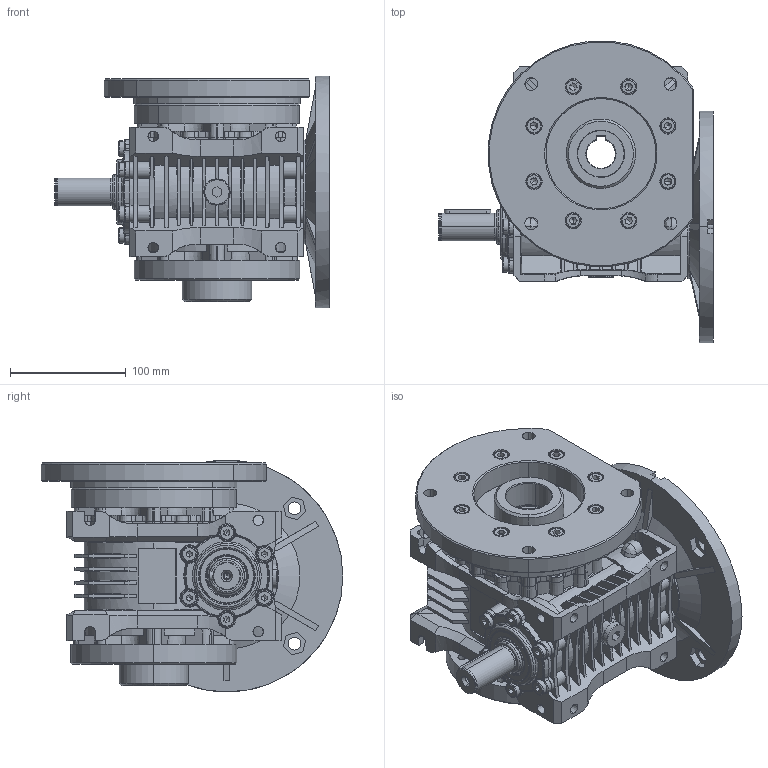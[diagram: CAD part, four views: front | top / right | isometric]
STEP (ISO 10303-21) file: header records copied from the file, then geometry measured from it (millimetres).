
FILE_DESCRIPTION (( 'STEP AP203' ), '1' );
FILE_NAME ('MRP-63_200-19-WBS-SO_2-KM_2-3D.STEP', '2024-10-28T13:57:06', ( '' ), ( '' ), 'SwSTEP 2.0', 'SolidWorks 2022', '' );
FILE_SCHEMA (( 'CONFIG_CONTROL_DESIGN' ));
Length unit declared in the file: millimetre
Products named in the file (1): MRP-63_200-19-WBS-SO_2-KM_2-3D
Bounding box: 237 x 260.13 x 200 mm (x, y, z)
Volume: 3084202.4 mm3; surface area: 526140.6 mm2
Topology: 1 solids, 98 shells, 4003 faces, 9851 edges, 6103 vertices
Faces by surface type: plane 1539, cone 968, cylinder 830, torus 382, bspline 246, sphere 38
Entity records: 125571 total; most frequent: CARTESIAN_POINT 32705, DIRECTION 19645, ORIENTED_EDGE 19438, EDGE_CURVE 9719, AXIS2_PLACEMENT_3D 7613, VERTEX_POINT 6103, VECTOR 4419, LINE 4419
